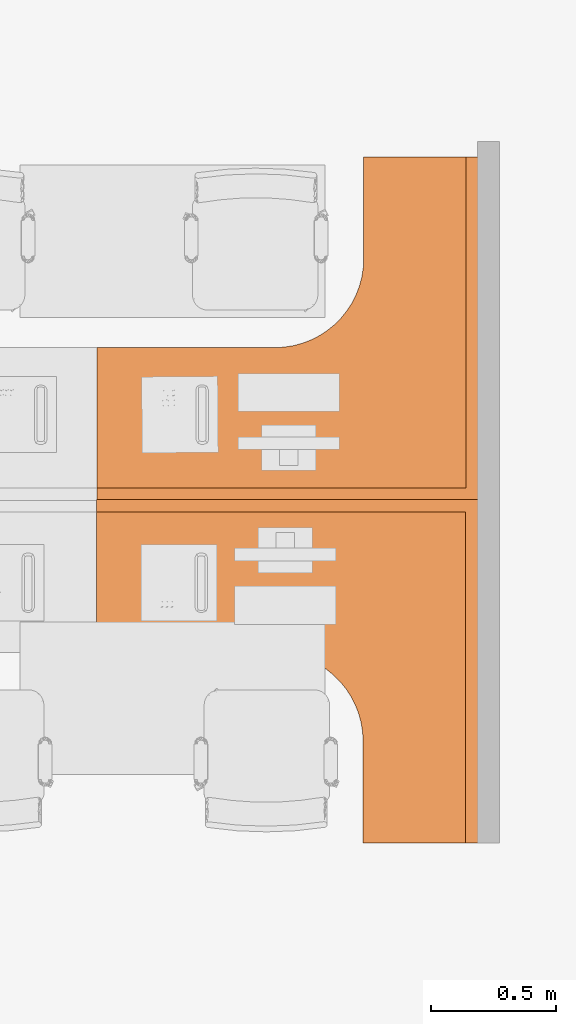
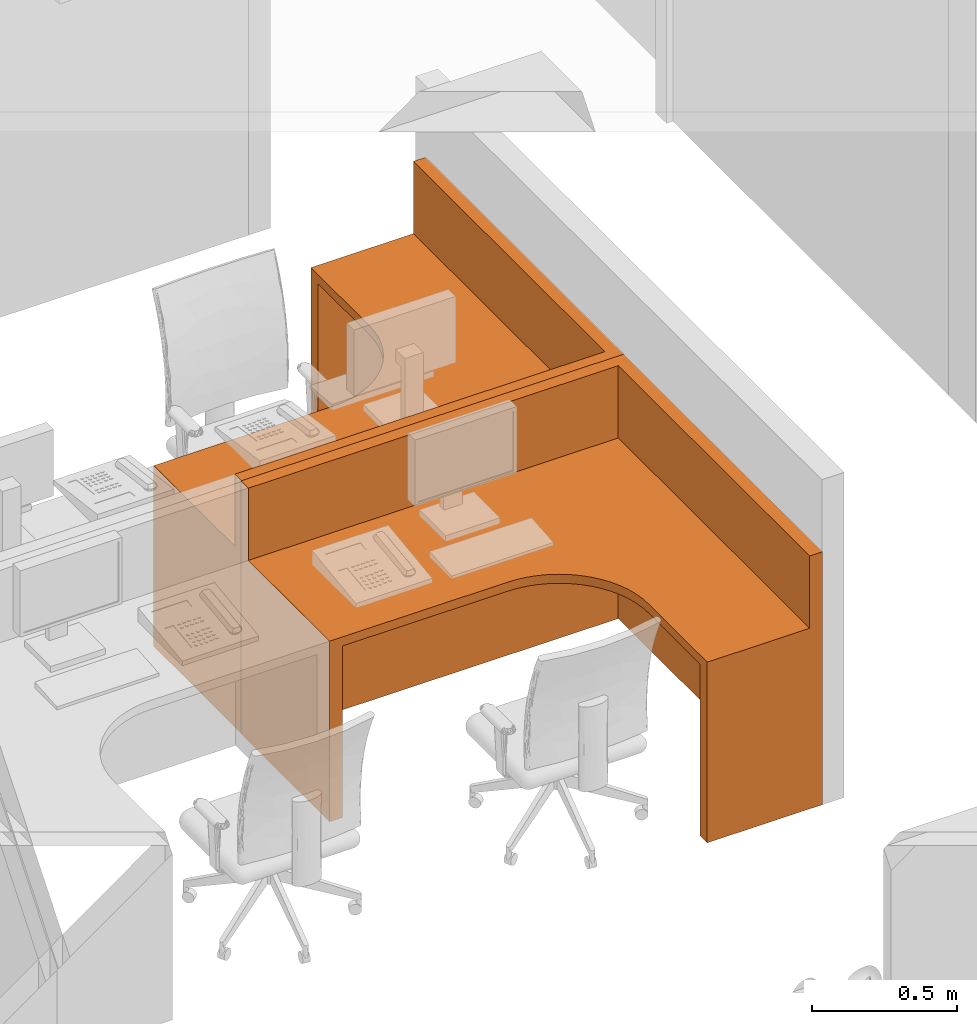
# One storey, part 34 of 142: 2 proxies.
"""IFC2X3 building model written with IfcOpenShell, lengths in feet."""

from ifc_helpers import new_model, entity, si_unit, converted_unit, derived_unit, direction, frame, frame_2d, origin, origin_2d_with_axis, place, context, subcontext, project, spatial, polyline, circle_curve, parameter, trimmed, segment, composite_curve, rectangle, outline, extrude, source, transform, mapped, type_object, type_shapes, element, save


model = new_model("IFC2X3")

# Units and contexts
model_context = context("Model", 3, precision=0.0001, world=origin(), true_north=direction((6.12303176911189e-17, 1.0)))
body_context = subcontext(model_context, "Body", "Model", "MODEL_VIEW")
ifc_project = project(units=[converted_unit("LENGTHUNIT", "FOOT", entity("IfcRatioMeasure", 0.3048), si_unit("LENGTHUNIT", "METRE"), dimensions=[1, 0, 0, 0, 0, 0, 0]), converted_unit("AREAUNIT", "SQUARE FOOT", entity("IfcRatioMeasure", 0.09290304), si_unit("AREAUNIT", "SQUARE_METRE"), dimensions=[2, 0, 0, 0, 0, 0, 0]), converted_unit("VOLUMEUNIT", "CUBIC FOOT", entity("IfcRatioMeasure", 0.028316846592), si_unit("VOLUMEUNIT", "CUBIC_METRE"), dimensions=[3, 0, 0, 0, 0, 0, 0]), converted_unit("PLANEANGLEUNIT", "DEGREE", entity("IfcRatioMeasure", 0.0174532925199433), si_unit("PLANEANGLEUNIT", "RADIAN"), dimensions=[0, 0, 0, 0, 0, 0, 0]), si_unit("MASSUNIT", "GRAM", prefix="KILO"), derived_unit("MASSDENSITYUNIT", [(si_unit("MASSUNIT", "GRAM", prefix="KILO"), 1), (si_unit("LENGTHUNIT", "METRE"), -3)]), si_unit("TIMEUNIT", "SECOND"), si_unit("FREQUENCYUNIT", "HERTZ"), si_unit("THERMODYNAMICTEMPERATUREUNIT", "DEGREE_CELSIUS"), derived_unit("THERMALTRANSMITTANCEUNIT", [(si_unit("MASSUNIT", "GRAM", prefix="KILO"), 1), (si_unit("THERMODYNAMICTEMPERATUREUNIT", "KELVIN"), -1), (si_unit("TIMEUNIT", "SECOND"), -3)]), derived_unit("VOLUMETRICFLOWRATEUNIT", [(si_unit("LENGTHUNIT", "METRE"), 3), (si_unit("TIMEUNIT", "SECOND"), -1)]), si_unit("ELECTRICCURRENTUNIT", "AMPERE"), si_unit("ELECTRICVOLTAGEUNIT", "VOLT"), si_unit("POWERUNIT", "WATT"), si_unit("FORCEUNIT", "NEWTON"), si_unit("ILLUMINANCEUNIT", "LUX"), si_unit("LUMINOUSFLUXUNIT", "LUMEN"), si_unit("LUMINOUSINTENSITYUNIT", "CANDELA"), derived_unit("USERDEFINED", [(si_unit("MASSUNIT", "GRAM", prefix="KILO"), -1), (si_unit("LENGTHUNIT", "METRE"), -2), (si_unit("TIMEUNIT", "SECOND"), 3), (si_unit("LUMINOUSFLUXUNIT", "LUMEN"), 1)]), derived_unit("LINEARVELOCITYUNIT", [(si_unit("LENGTHUNIT", "METRE"), 1), (si_unit("TIMEUNIT", "SECOND"), -1)]), si_unit("PRESSUREUNIT", "PASCAL"), derived_unit("USERDEFINED", [(si_unit("LENGTHUNIT", "METRE"), -2), (si_unit("MASSUNIT", "GRAM", prefix="KILO"), 1), (si_unit("TIMEUNIT", "SECOND"), -2)])], contexts=[model_context])

# Site, building, storey, space
site_placement = place(None, origin())
site = spatial("IfcSite", under=ifc_project, at=site_placement, Name="Default", CompositionType="ELEMENT")
building_placement = place(site_placement, origin())
building = spatial("IfcBuilding", under=site, at=building_placement, Name="OUTPATIENT / PACT CLINIC (Ch. 265)", CompositionType="ELEMENT")
storey_placement = place(building_placement, origin())
storey = spatial("IfcBuildingStorey", under=building, at=storey_placement, Name="LEVEL 1", CompositionType="ELEMENT", Elevation=0.0)
space_placement = place(storey_placement, origin())
space = spatial("IfcSpace", under=storey, at=space_placement, Name="WRTM1", CompositionType="ELEMENT", InteriorOrExteriorSpace="INTERNAL")

# Proxies
building_element_proxy_type_1 = type_object("IfcBuildingElementProxyType", Name="U0075 - Workstation, L-Shaped, Freestanding, 60x54", PredefinedType="NOTDEFINED")
shared_shape_1 = source(origin(), body_context, "Body", "SweptSolid", [
    extrude(rectangle(XDim=0.166666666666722, YDim=2.0, at=frame_2d((-1.3836154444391e-14, 0.0), x_axis=(1.0, 0.0))), frame((0.0833333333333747, -1.0, 0.0), z_axis=(0.0, 0.0, 1.0), x_axis=(-1.0, 0.0, 0.0)), (0.0, 0.0, 1.0), 2.375),
    extrude(rectangle(XDim=0.166666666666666, YDim=1.5, at=frame_2d((0.0, -4.44089209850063e-16), x_axis=(1.0, 0.0))), frame((4.25000000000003, -4.41666666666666, 0.0), z_axis=(0.0, 0.0, 1.0), x_axis=(0.0, 1.0, 0.0)), (0.0, 0.0, 1.0), 2.37499999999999),
    extrude(outline(composite_curve([segment(polyline([(-2.23809523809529, -2.3095238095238), (2.7619047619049, -2.3095238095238)]), True, "CONTINUOUS"), segment(polyline([(2.7619047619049, -2.3095238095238), (2.7619047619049, -0.309523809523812)]), True, "CONTINUOUS"), segment(polyline([(2.7619047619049, -0.309523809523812), (0.428571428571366, -0.309523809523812)]), True, "CONTINUOUS"), segment(trimmed(circle_curve(frame_2d((0.428571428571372, 0.857142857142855), x_axis=(1.0, 0.0)), 1.16666666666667), [parameter(180.0)], [parameter(270.0)], True, "PARAMETER"), False, "CONTINUOUS"), segment(polyline([(-0.738095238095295, 0.857142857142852), (-0.738095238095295, 2.19047619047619)]), True, "CONTINUOUS"), segment(polyline([(-0.738095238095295, 2.19047619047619), (-2.23809523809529, 2.19047619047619)]), True, "CONTINUOUS"), segment(polyline([(-2.23809523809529, 2.19047619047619), (-2.23809523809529, -2.3095238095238)]), True, "CONTINUOUS")], self_intersect=False)), frame((2.76190476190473, -2.30952380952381, 2.37499999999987), z_axis=(0.0, 0.0, 1.0), x_axis=(-1.0, 0.0, 0.0)), (0.0, 0.0, 1.0), 0.125),
    extrude(outline(polyline([(-2.16666666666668, -2.16666666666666), (2.83333333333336, -2.16666666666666), (2.83333333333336, -0.16666666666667), (-0.666666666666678, -0.16666666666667), (-0.666666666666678, 2.33333333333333), (-2.16666666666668, 2.33333333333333), (-2.16666666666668, -2.16666666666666)])), frame((2.83333333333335, -2.16666666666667, 2.37499999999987), z_axis=(0.0, 0.0, 1.0), x_axis=(-1.0, 0.0, 0.0)), (0.0, 0.0, 1.0), 0.125),
    extrude(rectangle(XDim=5.00000000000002, YDim=0.166666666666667, at=origin_2d_with_axis()), frame((2.49999999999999, -0.075000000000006, 0.0), z_axis=(0.0, 0.0, 1.0), x_axis=(-1.0, 0.0, 0.0)), (0.0, 0.0, 1.0), 3.5),
    extrude(rectangle(XDim=4.50000000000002, YDim=0.166666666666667, at=frame_2d((0.0, 4.44089209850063e-16), x_axis=(1.0, 0.0))), frame((4.92500000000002, -2.25000000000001, 0.0), z_axis=(0.0, 0.0, 1.0), x_axis=(0.0, 1.0, 0.0)), (0.0, 0.0, 1.0), 3.5),
])
type_shapes(building_element_proxy_type_1, [shared_shape_1])
proxy_1_placement = place(space_placement, frame((424.359283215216, -922.628851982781, 0.0)))
element("IfcBuildingElementProxy", 1, at=proxy_1_placement, inside=space, type_object=building_element_proxy_type_1, Name="U0075 - Workstation, L-Shaped, Freestanding, 60x54:U0075 - Workstation, L-Shaped, Freestanding, 60x54", ObjectType="U0075 - Workstation, L-Shaped, Freestanding, 60x54", context=body_context, shape_type="MappedRepresentation", body=[
    mapped(shared_shape_1, transform((0.0, 0.0, 0.0), scale=1.0)),
])
building_element_proxy_type_2 = type_object("IfcBuildingElementProxyType", Name="U0075 - Workstation, L-Shaped, Freestanding, 60x54", PredefinedType="NOTDEFINED")
shared_shape_2 = source(origin(), body_context, "Body", "SweptSolid", [
    extrude(rectangle(XDim=2.0, YDim=0.166666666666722, at=frame_2d((-1.11022302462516e-16, -1.3836154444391e-14), x_axis=(1.0, 0.0))), frame((0.0833333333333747, 1.0, 0.0), z_axis=(0.0, 0.0, 1.0), x_axis=(0.0, 1.0, 0.0)), (0.0, 0.0, 1.0), 2.375),
    extrude(rectangle(XDim=1.5, YDim=0.166666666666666, at=frame_2d((-4.44089209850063e-16, 0.0), x_axis=(1.0, 0.0))), frame((4.25000000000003, 4.41666666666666, 0.0), z_axis=(0.0, 0.0, 1.0), x_axis=(-1.0, 0.0, 0.0)), (0.0, 0.0, 1.0), 2.37499999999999),
    extrude(outline(composite_curve([segment(polyline([(-2.3095238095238, -2.23809523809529), (2.19047619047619, -2.23809523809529)]), True, "CONTINUOUS"), segment(polyline([(2.19047619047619, -2.23809523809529), (2.19047619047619, -0.738095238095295)]), True, "CONTINUOUS"), segment(polyline([(2.19047619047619, -0.738095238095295), (0.857142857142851, -0.738095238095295)]), True, "CONTINUOUS"), segment(trimmed(circle_curve(frame_2d((0.857142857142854, 0.428571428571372), x_axis=(0.0, 1.0)), 1.16666666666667), [parameter(90.0)], [parameter(180.0)], True, "PARAMETER"), False, "CONTINUOUS"), segment(polyline([(-0.309523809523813, 0.428571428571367), (-0.309523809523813, 2.7619047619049)]), True, "CONTINUOUS"), segment(polyline([(-0.309523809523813, 2.7619047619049), (-2.3095238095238, 2.7619047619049)]), True, "CONTINUOUS"), segment(polyline([(-2.3095238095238, 2.7619047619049), (-2.3095238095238, -2.23809523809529)]), True, "CONTINUOUS")], self_intersect=False)), frame((2.76190476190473, 2.30952380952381, 2.37499999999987), z_axis=(0.0, 0.0, 1.0), x_axis=(0.0, 1.0, 0.0)), (0.0, 0.0, 1.0), 0.125),
    extrude(outline(polyline([(-2.16666666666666, -2.16666666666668), (2.33333333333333, -2.16666666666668), (2.33333333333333, -0.666666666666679), (-0.16666666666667, -0.666666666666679), (-0.16666666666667, 2.83333333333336), (-2.16666666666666, 2.83333333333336), (-2.16666666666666, -2.16666666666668)])), frame((2.83333333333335, 2.16666666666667, 2.37499999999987), z_axis=(0.0, 0.0, 1.0), x_axis=(0.0, 1.0, 0.0)), (0.0, 0.0, 1.0), 0.125),
    extrude(rectangle(XDim=0.166666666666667, YDim=5.00000000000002, at=frame_2d((2.77555756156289e-17, -2.22044604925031e-16), x_axis=(1.0, 0.0))), frame((2.49999999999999, 0.0750000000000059, 0.0), z_axis=(0.0, 0.0, 1.0), x_axis=(0.0, 1.0, 0.0)), (0.0, 0.0, 1.0), 3.5),
    extrude(rectangle(XDim=0.166666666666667, YDim=4.50000000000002, at=frame_2d((4.44089209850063e-16, 2.22044604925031e-16), x_axis=(1.0, 0.0))), frame((4.92500000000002, 2.25000000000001, 0.0), z_axis=(0.0, 0.0, 1.0), x_axis=(-1.0, 0.0, 0.0)), (0.0, 0.0, 1.0), 3.5),
])
type_shapes(building_element_proxy_type_2, [shared_shape_2])
proxy_2_placement = place(space_placement, frame((424.367616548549, -922.628851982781, 0.0)))
element("IfcBuildingElementProxy", 2, at=proxy_2_placement, inside=space, type_object=building_element_proxy_type_2, Name="U0075 - Workstation, L-Shaped, Freestanding, 60x54:U0075 - Workstation, L-Shaped, Freestanding, 60x54", ObjectType="U0075 - Workstation, L-Shaped, Freestanding, 60x54", context=body_context, shape_type="MappedRepresentation", body=[
    mapped(shared_shape_2, transform((0.0, 0.0, 0.0), scale=1.0)),
])

save(model, "model.ifc")
